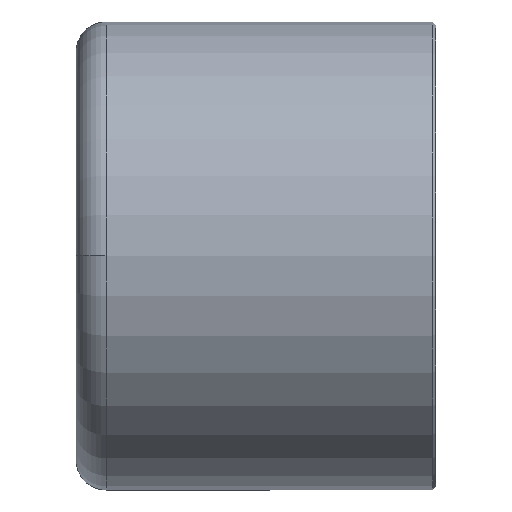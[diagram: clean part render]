
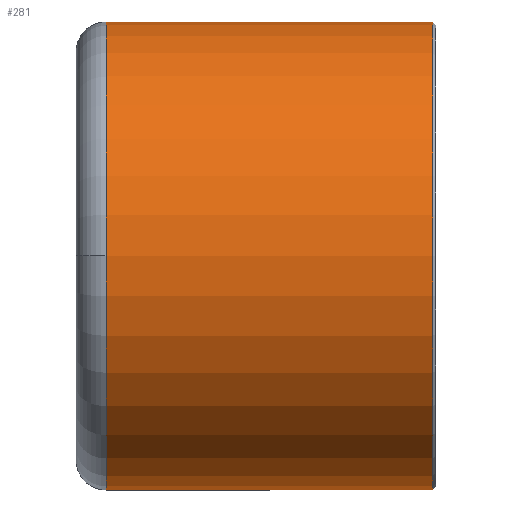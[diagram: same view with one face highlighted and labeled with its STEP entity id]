
A CAD part, top view. The second image highlights one B-rep face of the part: STEP entity #281.
In plain terms, the highlighted cylindrical face has radius 14.9 mm (diameter 29.8 mm), a partial arc.
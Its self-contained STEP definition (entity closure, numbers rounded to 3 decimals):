
#78=CARTESIAN_POINT('',(-10.,0.,14.9));
#79=VERTEX_POINT('',#78);
#87=CARTESIAN_POINT('',(-10.0,14.9,0.0));
#88=VERTEX_POINT('',#87);
#89=CARTESIAN_POINT('',(-10.,0.,0.0));
#90=DIRECTION('',(1.0,0.0,0.0));
#91=DIRECTION('',(0.0,1.0,0.0));
#92=AXIS2_PLACEMENT_3D('',#89,#90,#91);
#93=CIRCLE('',#92,14.9);
#94=EDGE_CURVE('',#88,#79,#93,.T.);
#241=CARTESIAN_POINT('',(0.5,0.,0.0));
#242=DIRECTION('',(1.0,0.,0.0));
#243=DIRECTION('',(0.0,1.0,0.0));
#244=AXIS2_PLACEMENT_3D('',#241,#242,#243);
#245=CYLINDRICAL_SURFACE('',#244,14.9);
#246=CARTESIAN_POINT('',(10.8,14.9,0.));
#247=VERTEX_POINT('',#246);
#248=CARTESIAN_POINT('',(-10.0,14.9,0.0));
#249=DIRECTION('',(1.0,0.0,0.0));
#250=VECTOR('',#249,20.8);
#251=LINE('',#248,#250);
#252=EDGE_CURVE('',#88,#247,#251,.T.);
#253=ORIENTED_EDGE('',*,*,#252,.F.);
#254=ORIENTED_EDGE('',*,*,#94,.T.);
#255=CARTESIAN_POINT('',(-10.,-14.9,0.));
#256=VERTEX_POINT('',#255);
#257=CARTESIAN_POINT('',(-10.,0.,0.0));
#258=DIRECTION('',(1.0,0.0,0.0));
#259=DIRECTION('',(0.0,1.0,0.0));
#260=AXIS2_PLACEMENT_3D('',#257,#258,#259);
#261=CIRCLE('',#260,14.9);
#262=EDGE_CURVE('',#79,#256,#261,.T.);
#263=ORIENTED_EDGE('',*,*,#262,.T.);
#264=CARTESIAN_POINT('',(10.8,-14.9,0.));
#265=VERTEX_POINT('',#264);
#266=CARTESIAN_POINT('',(10.8,-14.9,0.));
#267=DIRECTION('',(-1.0,0.0,0.0));
#268=VECTOR('',#267,20.8);
#269=LINE('',#266,#268);
#270=EDGE_CURVE('',#265,#256,#269,.T.);
#271=ORIENTED_EDGE('',*,*,#270,.F.);
#272=CARTESIAN_POINT('',(10.8,0.,0.0));
#273=DIRECTION('',(1.0,0.0,0.0));
#274=DIRECTION('',(0.0,1.0,0.0));
#275=AXIS2_PLACEMENT_3D('',#272,#273,#274);
#276=CIRCLE('',#275,14.9);
#277=EDGE_CURVE('',#247,#265,#276,.T.);
#278=ORIENTED_EDGE('',*,*,#277,.F.);
#279=EDGE_LOOP('',(#253,#254,#263,#271,#278));
#280=FACE_OUTER_BOUND('',#279,.T.);
#281=ADVANCED_FACE('',(#280),#245,.T.);
